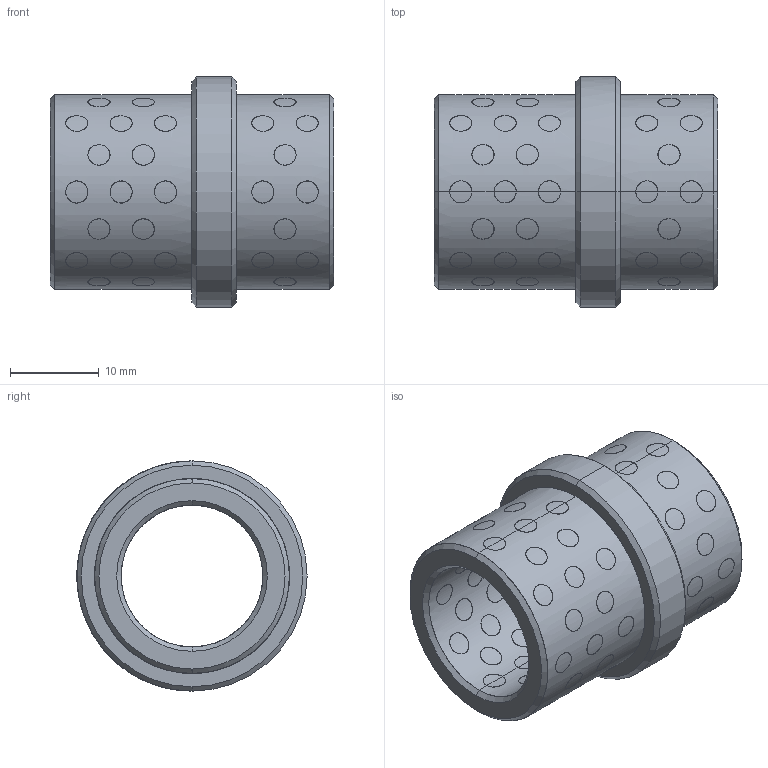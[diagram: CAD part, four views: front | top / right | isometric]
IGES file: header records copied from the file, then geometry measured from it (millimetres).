
Start section: START RECORD GO HERE.
Global section: file name: G4031632.igs; native system: DASSAULT SYSTEMES CATIA V5 R20 - www.3ds.com; preprocessor: CATIA Version 5 Release 20 ; author: r.borello; organization: CFTORINO; date: 20190624.144754; units: millimetre
Bounding box: 32 x 26 x 26 mm (x, y, z)
Surface area: 7436.9 mm2 (no closed solid volume)
Topology: 0 solids, 0 shells, 428 faces, 1872 edges, 1872 vertices
Faces by surface type: revolution 424, plane 4
